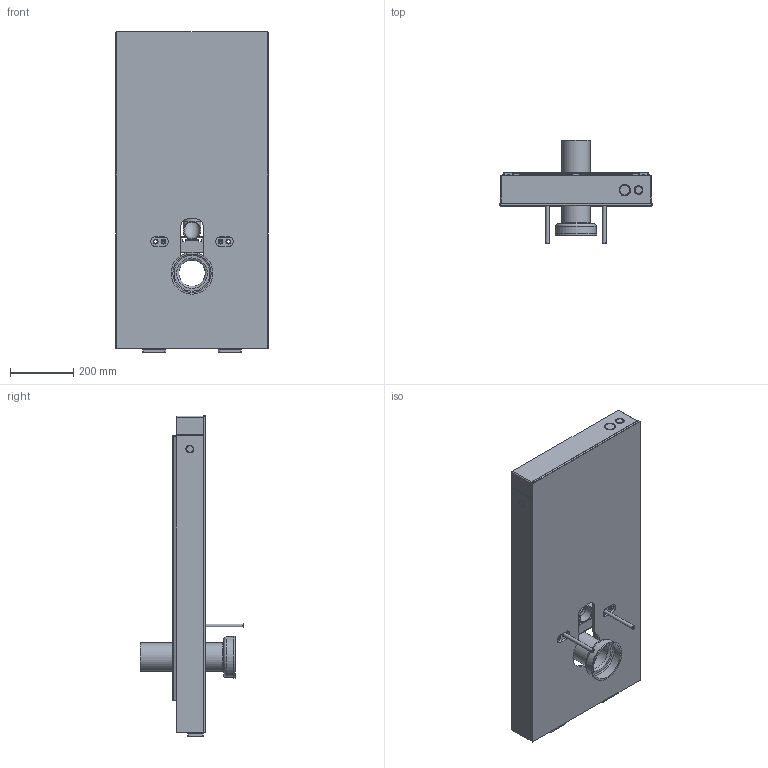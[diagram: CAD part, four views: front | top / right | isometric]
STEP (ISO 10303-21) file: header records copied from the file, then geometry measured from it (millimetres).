
FILE_DESCRIPTION(/* description */ (''),/* implementation_level */ '2;1');
FILE_NAME(/* name */ 'C:\Planerdaten\Export PLA\131.221.xx.7\stp\131.221.JL.7.stp',/* time_stamp */ '2023-01-04T09:40:36+01:00',/* author */ ('JANAN'),/* organization */ (''),/* preprocessor_version */ 'ST-DEVELOPER v19',/* originating_system */ 'Autodesk Inventor 2023',/* authorisation */ '');
FILE_SCHEMA (('AUTOMOTIVE_DESIGN { 1 0 10303 214 3 1 1 }'));
Length unit declared in the file: millimetre
Products named in the file (1): tmp28C2.tmp
Bounding box: 482 x 328 x 1013.5 mm (x, y, z)
Volume: 9004444.5 mm3; surface area: 4011424.1 mm2
Topology: 18 solids, 18 shells, 1033 faces, 2686 edges, 1692 vertices
Faces by surface type: plane 681, cylinder 274, sphere 32, cone 19, torus 18, bspline 9
Full cylindrical faces by diameter (mm): 4.2 x4, 5 x4, 6 x2, 9 x4, 10.5 x5, 12 x2, 13 x2, 15 x2, 16.4 x2, 20.5 x2, 22 x1, 24 x4, 27 x1, 31 x1, 36 x1, 42.41 x1, 50.25 x1, 50.7 x2, 56.7 x3, 63 x1, 64 x1, 71.75 x1, 74 x1, 78 x1, 81.75 x1, 83 x1, 90 x1, 121 x1, 128 x1, 132 x1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
Entity records: 32946 total; most frequent: CARTESIAN_POINT 5924, ORIENTED_EDGE 5352, DIRECTION 5346, EDGE_CURVE 2676, LINE 1984, VECTOR 1984, VERTEX_POINT 1692, AXIS2_PLACEMENT_3D 1681
